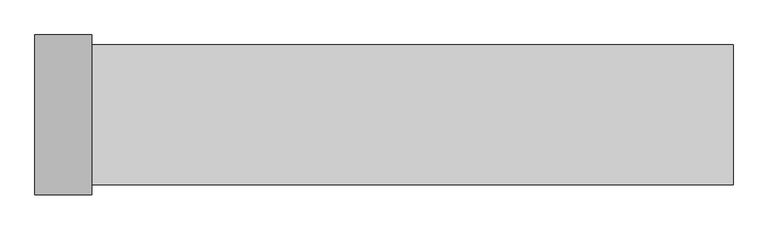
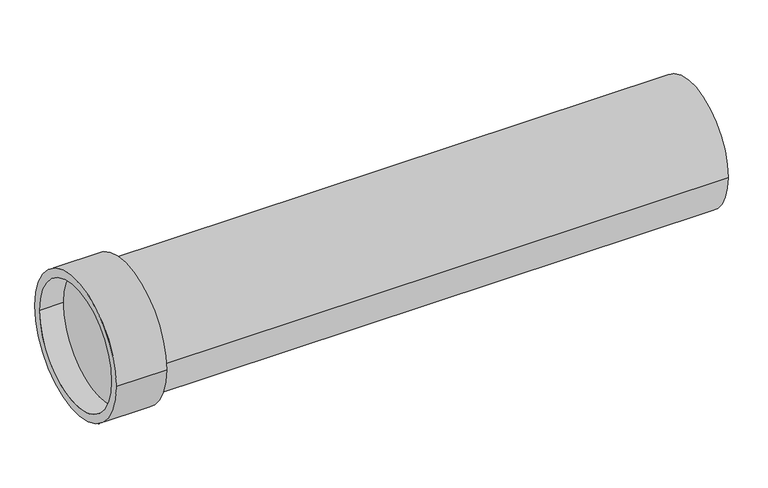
"""IFC4 building model written with IfcOpenShell, lengths in millimetres: duct segment geometry, NLRS_57_DUF_UN_duct EPP_M&G : ø125 - ø180."""

from ifc_helpers import new_model, si_unit, frame, origin, place, context, project, spatial, polyline, circle_curve, source, transform, mapped, element, save
from ifc_brep_helpers import plane_surface, cylinder_surface, revolved_surface, advanced_brep


def duct_segment_ae39d81a(model_context):
    return source(origin(), model_context, "Body", "AdvancedBrep", [
        advanced_brep(
        [(1005.0, 105.0, 0.0), (1005.0, -105.0, 0.0), (0.0, 105.0, 0.0), (0.0, -105.0, 0.0), (45.0, 105.0, 0.0), (45.0, -105.0, 0.0), (-40.0, -119.5, 0.0), (-40.0, 119.5, 0.0), (-40.0, -105.0, 0.0), (-40.0, 105.0, 0.0), (45.0, -119.5, 0.0), (45.0, 119.5, 0.0)],
        [
            (0, 1, circle_curve(frame((1005.0, 0.0, 0.0), z_axis=(1.0, 0.0, 0.0), x_axis=(0.0, -1.0, 0.0)), 105.0)),
            (1, 0, circle_curve(frame((1005.0, 0.0, 0.0), z_axis=(1.0, 0.0, 0.0), x_axis=(0.0, -1.0, 0.0)), 105.0)),
            (2, 3, circle_curve(frame((0.0, 0.0, 0.0), z_axis=(-1.0, 0.0, 0.0), x_axis=(0.0, 1.0, 0.0)), 105.0)),
            (3, 2, circle_curve(frame((0.0, 0.0, 0.0), z_axis=(-1.0, 0.0, 0.0), x_axis=(0.0, 1.0, 0.0)), 105.0)),
            (0, 4),
            (4, 5, circle_curve(frame((45.0, 0.0, 0.0), z_axis=(1.0, 0.0, 0.0), x_axis=(0.0, -1.0, 0.0)), 105.0)),
            (5, 1),
            (5, 4, circle_curve(frame((45.0, 0.0, 0.0), z_axis=(1.0, 0.0, 0.0), x_axis=(0.0, -1.0, 0.0)), 105.0)),
            (6, 7, circle_curve(frame((-40.0, 0.0, 0.0), z_axis=(-1.0, 0.0, 0.0), x_axis=(0.0, 1.0, 0.0)), 119.5)),
            (7, 6, circle_curve(frame((-40.0, 0.0, 0.0), z_axis=(-1.0, 0.0, 0.0), x_axis=(0.0, 1.0, 0.0)), 119.5)),
            (8, 9, circle_curve(frame((-40.0, 0.0, 0.0), z_axis=(1.0, 0.0, 0.0), x_axis=(0.0, 1.0, 0.0)), 105.0)),
            (9, 8, circle_curve(frame((-40.0, 0.0, 0.0), z_axis=(1.0, 0.0, 0.0), x_axis=(0.0, 1.0, 0.0)), 105.0)),
            (10, 11, circle_curve(frame((45.0, 0.0, 0.0), z_axis=(1.0, 0.0, 0.0), x_axis=(0.0, 1.0, 0.0)), 119.5)),
            (11, 10, circle_curve(frame((45.0, 0.0, 0.0), z_axis=(1.0, 0.0, 0.0), x_axis=(0.0, 1.0, 0.0)), 119.5)),
            (8, 3),
            (2, 9),
            (6, 10),
            (11, 7),
        ],
        [
            plane_surface(frame((1005.0, 0.0, 0.0), z_axis=(1.0, 0.0, 0.0), x_axis=(0.0, 0.0, 1.0))),
            plane_surface(frame((0.0, 0.0, 0.0), z_axis=(-1.0, 0.0, 0.0), x_axis=(0.0, 0.0, 1.0))),
            cylinder_surface(frame((1005.0, 0.0, 0.0), z_axis=(1.0, 0.0, 0.0), x_axis=(0.0, -1.0, 0.0)), 105.0),
            plane_surface(frame((-40.0, 0.0, 0.0), z_axis=(-1.0, 0.0, 0.0), x_axis=(0.0, 0.0, 1.0))),
            plane_surface(frame((45.0, 0.0, 0.0), z_axis=(1.0, 0.0, 0.0), x_axis=(0.0, 0.0, 1.0))),
            revolved_surface(polyline([(0.0, 105.0, 0.0), (-40.0, 105.0, 0.0)]), (-40.0, 0.0, 0.0), (1.0, 0.0, 0.0)),
            cylinder_surface(frame((-40.0, 0.0, 0.0), z_axis=(-1.0, 0.0, 0.0), x_axis=(0.0, 1.0, 0.0)), 119.5),
        ],
        [
            (0, [[1, 2]]),
            (1, [[3, 4]]),
            (2, [[-1, 5, 6, 7]]),
            (2, [[-2, -7, 8, -5]]),
            (3, [[9, 10], [11, 12]]),
            (4, [[13, 14], [-6, -8]]),
            (5, [[-11, 15, -3, 16]]),
            (5, [[-12, -16, -4, -15]]),
            (6, [[-9, 17, -14, 18]]),
            (6, [[-10, -18, -13, -17]]),
        ],
    ),
    ])


if __name__ == "__main__":
    model = new_model("IFC4")
    model_context = context("Model", 3, world=origin())
    ifc_project = project(units=[si_unit("LENGTHUNIT", "METRE", prefix="MILLI")], contexts=[model_context])
    site = spatial("IfcSite", under=ifc_project)
    building = spatial("IfcBuilding", under=site)
    placement = place(None, origin())
    duct_segment_shape = duct_segment_ae39d81a(model_context)
    element("IfcDuctSegment", 1, ObjectType="NLRS_57_DUF_UN_duct EPP_M&G : ø125 - ø180", at=placement, inside=building, context=model_context, shape_type="MappedRepresentation", body=[
        mapped(duct_segment_shape, transform((0.0, 0.0, 0.0), x_axis=(1.0, 0.0, 0.0), y_axis=(0.0, 1.0, 0.0), z_axis=(0.0, 0.0, 1.0))),
    ])
    save(model, "model.ifc")
